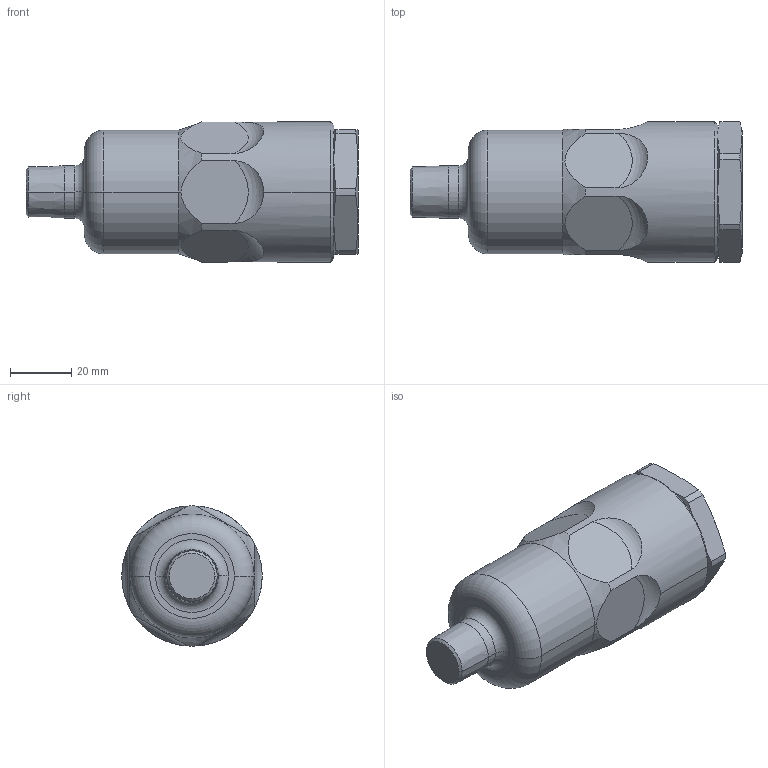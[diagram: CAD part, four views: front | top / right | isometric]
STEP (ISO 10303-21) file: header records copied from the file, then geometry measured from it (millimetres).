
FILE_DESCRIPTION((''),'2;1');
FILE_NAME('77X523-EN-B_PRT','2020-01-01T11:49:15',('qusrh3'),(''),'CREO PARAMETRIC BY PTC INC, 2019030','CREO PARAMETRIC BY PTC INC, 2019030','');
FILE_SCHEMA(('CONFIG_CONTROL_DESIGN'));
Length unit declared in the file: inch
Products named in the file (1): 77X523-EN-B_PRT
Bounding box: 108.25 x 45.72 x 45.72 mm (x, y, z)
Surface area: 17504.9 mm2 (no closed solid volume)
Topology: 0 solids, 3 shells, 50 faces, 126 edges, 80 vertices
Faces by surface type: plane 16, cone 12, cylinder 12, torus 10
Entity records: 1774 total; most frequent: CARTESIAN_POINT 543, DIRECTION 254, ORIENTED_EDGE 248, EDGE_CURVE 126, AXIS2_PLACEMENT_3D 106, VERTEX_POINT 80, CIRCLE 56, EDGE_LOOP 50
